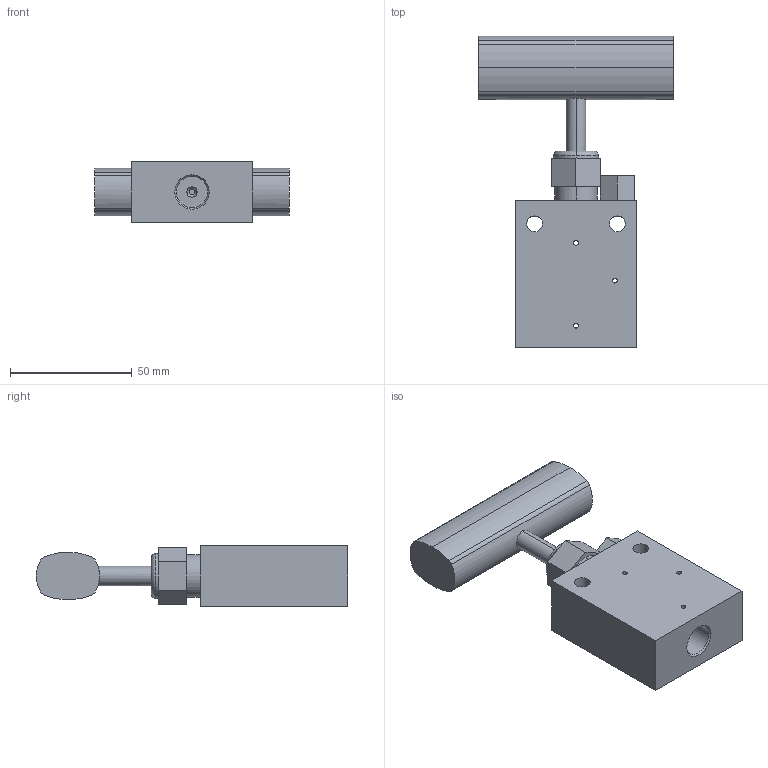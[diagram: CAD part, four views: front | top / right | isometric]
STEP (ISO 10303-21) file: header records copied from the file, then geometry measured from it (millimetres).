
FILE_DESCRIPTION (( 'STEP AP203' ), '1' );
FILE_NAME ('NV30VS04-A-00-00.STEP', '2023-02-27T02:46:20', ( 'USER' ), ( '' ), 'SwSTEP 2.0', 'SolidWorks 2020', '' );
FILE_SCHEMA (( 'CONFIG_CONTROL_DESIGN' ));
Length unit declared in the file: millimetre
Products named in the file (1): NV30VS04-A-00-00
Bounding box: 80 x 127.82 x 25 mm (x, y, z)
Volume: 113307.6 mm3; surface area: 23573.7 mm2
Topology: 1 solids, 1 shells, 90 faces, 222 edges, 140 vertices
Faces by surface type: cylinder 45, plane 29, cone 14, torus 2
Entity records: 3107 total; most frequent: CARTESIAN_POINT 815, DIRECTION 476, ORIENTED_EDGE 444, EDGE_CURVE 222, AXIS2_PLACEMENT_3D 181, VERTEX_POINT 140, EDGE_LOOP 116, LINE 114
